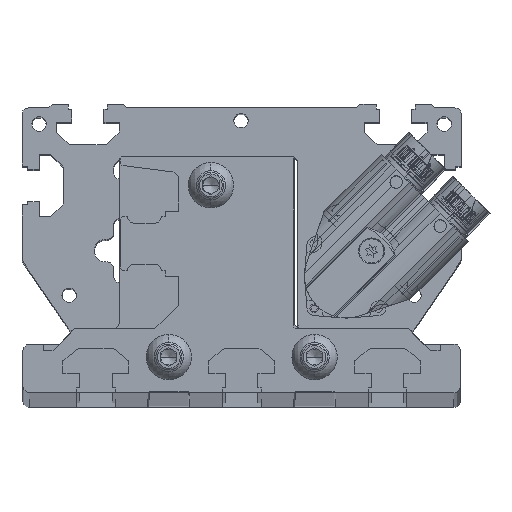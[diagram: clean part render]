
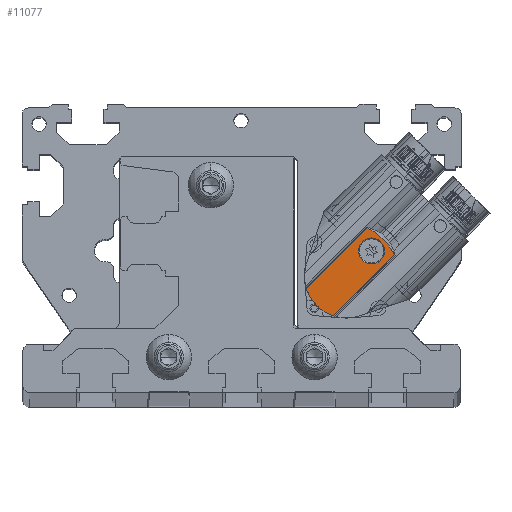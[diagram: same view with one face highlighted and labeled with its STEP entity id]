
A CAD part, top view. The second image highlights one B-rep face of the part: STEP entity #11077.
In plain terms, the highlighted planar face has unit normal (0, 0, 1).
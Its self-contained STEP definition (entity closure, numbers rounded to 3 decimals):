
#1590 = CARTESIAN_POINT ( 'NONE',  ( 5.428, 13.735, 18.8 ) ) ;
#1591 = DIRECTION ( 'NONE',  ( -0.707, -0.707, 0. ) ) ;
#2116 = EDGE_CURVE ( 'NONE', #14528, #18480, #9809, .T. ) ;
#3073 = AXIS2_PLACEMENT_3D ( 'NONE', #13745, #13747, #13749 ) ;
#3074 = AXIS2_PLACEMENT_3D ( 'NONE', #13751, #13752, #13753 ) ;
#3248 = EDGE_LOOP ( 'NONE', ( #8673, #8674, #8675, #8676 ) ) ;
#3249 = EDGE_LOOP ( 'NONE', ( #8671, #8672 ) ) ;
#4540 = B_SPLINE_CURVE_WITH_KNOTS ( 'NONE', 3,
 ( #43491, #43492, #43493, #43494, #43495, #43496, #43497, #43498, #43499, #43500, #43501, #43502 ),
 .UNSPECIFIED., .F., .F.,
 ( 4, 2, 2, 2, 2, 4 ),
 ( 0., 0.003, 0.006, 0.007, 0.009, 0.012 ),
 .UNSPECIFIED. ) ;
#5432 = PLANE ( 'NONE',  #21953 ) ;
#5433 = CARTESIAN_POINT ( 'NONE',  ( 9.581, 9.581, 18.8 ) ) ;
#5434 = DIRECTION ( 'NONE',  ( 0., 0., 1. ) ) ;
#5435 = DIRECTION ( 'NONE',  ( 0.707, -0.707, 0. ) ) ;
#6258 = EDGE_CURVE ( 'NONE', #33221, #18480, #9583, .T. ) ;
#6259 = EDGE_CURVE ( 'NONE', #14580, #18681, #9584, .T. ) ;
#8671 = ORIENTED_EDGE ( 'NONE', *, *, #30727, .T. ) ;
#8672 = ORIENTED_EDGE ( 'NONE', *, *, #6259, .T. ) ;
#8673 = ORIENTED_EDGE ( 'NONE', *, *, #6258, .F. ) ;
#8674 = ORIENTED_EDGE ( 'NONE', *, *, #22310, .T. ) ;
#8675 = ORIENTED_EDGE ( 'NONE', *, *, #22314, .T. ) ;
#8676 = ORIENTED_EDGE ( 'NONE', *, *, #2116, .T. ) ;
#9583 = CIRCLE ( 'NONE', #3073, 12.9 ) ;
#9584 = CIRCLE ( 'NONE', #3074, 4. ) ;
#9809 = LINE ( 'NONE', #1590, #9810 ) ;
#9810 = VECTOR ( 'NONE', #1591, 1000. ) ;
#11077 = ADVANCED_FACE ( 'NONE', ( #16587, #16590 ), #5432, .T. ) ;
#13745 = CARTESIAN_POINT ( 'NONE',  ( 0., 0., 18.8 ) ) ;
#13747 = DIRECTION ( 'NONE',  ( 0., 0., -1. ) ) ;
#13749 = DIRECTION ( 'NONE',  ( 0.707, -0.707, 0. ) ) ;
#13751 = CARTESIAN_POINT ( 'NONE',  ( 7.778, 7.778, 18.8 ) ) ;
#13752 = DIRECTION ( 'NONE',  ( 0., 0., -1. ) ) ;
#13753 = DIRECTION ( 'NONE',  ( -0.707, -0.707, 0. ) ) ;
#14528 = VERTEX_POINT ( 'NONE', #41360 ) ;
#14580 = VERTEX_POINT ( 'NONE', #41412 ) ;
#16587 = FACE_BOUND ( 'NONE', #3249, .T. ) ;
#16590 = FACE_OUTER_BOUND ( 'NONE', #3248, .T. ) ;
#18480 = VERTEX_POINT ( 'NONE', #42599 ) ;
#18681 = VERTEX_POINT ( 'NONE', #42800 ) ;
#21578 = AXIS2_PLACEMENT_3D ( 'NONE', #27302, #27303, #27304 ) ;
#21953 = AXIS2_PLACEMENT_3D ( 'NONE', #5433, #5434, #5435 ) ;
#22310 = EDGE_CURVE ( 'NONE', #33221, #33219, #32772, .T. ) ;
#22314 = EDGE_CURVE ( 'NONE', #33219, #14528, #4540, .T. ) ;
#27302 = CARTESIAN_POINT ( 'NONE',  ( 7.778, 7.778, 18.8 ) ) ;
#27303 = DIRECTION ( 'NONE',  ( 0., 0., -1. ) ) ;
#27304 = DIRECTION ( 'NONE',  ( -0.707, -0.707, 0. ) ) ;
#30727 = EDGE_CURVE ( 'NONE', #18681, #14580, #33514, .T. ) ;
#32772 = LINE ( 'NONE', #43485, #32773 ) ;
#32773 = VECTOR ( 'NONE', #43486, 1000. ) ;
#33219 = VERTEX_POINT ( 'NONE', #34787 ) ;
#33221 = VERTEX_POINT ( 'NONE', #34789 ) ;
#33514 = CIRCLE ( 'NONE', #21578, 4. ) ;
#34787 = CARTESIAN_POINT ( 'NONE',  ( 14.874, 6.567, 18.8 ) ) ;
#34789 = CARTESIAN_POINT ( 'NONE',  ( -3.968, -12.275, 18.8 ) ) ;
#41360 = CARTESIAN_POINT ( 'NONE',  ( 6.567, 14.874, 18.8 ) ) ;
#41412 = CARTESIAN_POINT ( 'NONE',  ( 10.607, 10.607, 18.8 ) ) ;
#42599 = CARTESIAN_POINT ( 'NONE',  ( -12.275, -3.968, 18.8 ) ) ;
#42800 = CARTESIAN_POINT ( 'NONE',  ( 4.95, 4.95, 18.8 ) ) ;
#43485 = CARTESIAN_POINT ( 'NONE',  ( 13.735, 5.428, 18.8 ) ) ;
#43486 = DIRECTION ( 'NONE',  ( 0.707, 0.707, 0. ) ) ;
#43491 = CARTESIAN_POINT ( 'NONE',  ( 14.874, 6.567, 18.8 ) ) ;
#43492 = CARTESIAN_POINT ( 'NONE',  ( 14.421, 7.463, 18.8 ) ) ;
#43493 = CARTESIAN_POINT ( 'NONE',  ( 13.902, 8.311, 18.8 ) ) ;
#43494 = CARTESIAN_POINT ( 'NONE',  ( 12.741, 9.914, 18.8 ) ) ;
#43495 = CARTESIAN_POINT ( 'NONE',  ( 12.098, 10.67, 18.8 ) ) ;
#43496 = CARTESIAN_POINT ( 'NONE',  ( 11.037, 11.732, 18.8 ) ) ;
#43497 = CARTESIAN_POINT ( 'NONE',  ( 10.668, 12.073, 18.8 ) ) ;
#43498 = CARTESIAN_POINT ( 'NONE',  ( 9.909, 12.72, 18.8 ) ) ;
#43499 = CARTESIAN_POINT ( 'NONE',  ( 9.519, 13.027, 18.8 ) ) ;
#43500 = CARTESIAN_POINT ( 'NONE',  ( 8.312, 13.902, 18.8 ) ) ;
#43501 = CARTESIAN_POINT ( 'NONE',  ( 7.463, 14.421, 18.8 ) ) ;
#43502 = CARTESIAN_POINT ( 'NONE',  ( 6.567, 14.874, 18.8 ) ) ;
